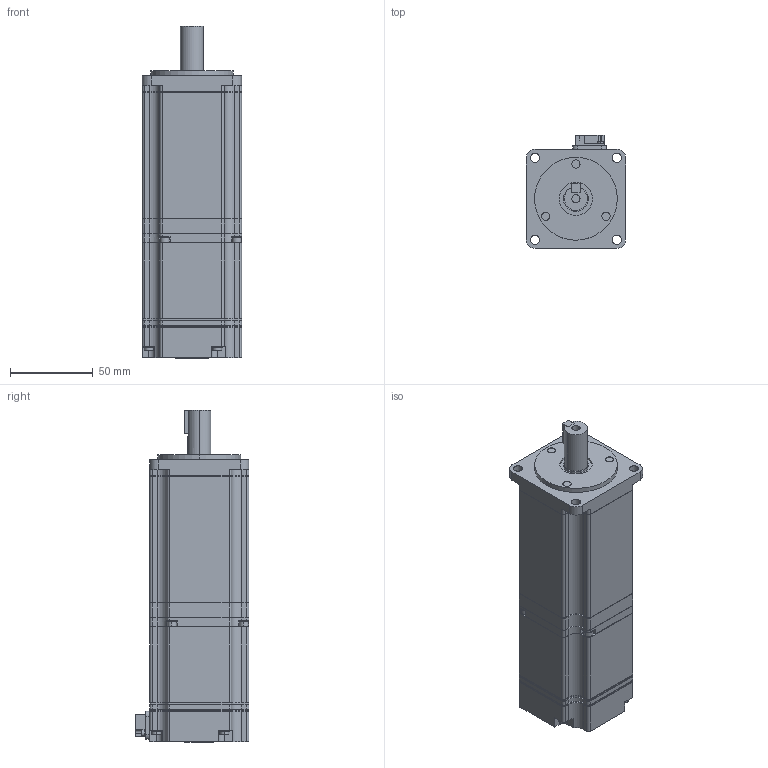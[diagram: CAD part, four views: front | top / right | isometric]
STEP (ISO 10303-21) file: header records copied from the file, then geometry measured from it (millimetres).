
FILE_DESCRIPTION (( 'STEP AP203' ), '1' );
FILE_NAME ('sgmav_06a_a6c.STEP', '2009-03-27T06:22:23', ( 'T' ), ( 'T' ), 'SwSTEP 2.0', 'SolidWorks 2006052', '' );
FILE_SCHEMA (( 'CONFIG_CONTROL_DESIGN' ));
Length unit declared in the file: millimetre
Products named in the file (3): sgmav_06a_a6c_base; sgmav_06a_a6c_key; sgmav_06a_a6c
Assembly tree (2 placements, depth 2):
  sgmav_06a_a6c
    sgmav_06a_a6c_key
    sgmav_06a_a6c_base
Bounding box: 60.1 x 68.8 x 200.6 mm (x, y, z)
Volume: 554156.2 mm3; surface area: 52958.1 mm2
Topology: 2 solids, 2 shells, 645 faces, 1769 edges, 1170 vertices
Faces by surface type: plane 353, cylinder 292
Entity records: 20961 total; most frequent: DIRECTION 3676, CARTESIAN_POINT 3631, ORIENTED_EDGE 3538, EDGE_CURVE 1769, AXIS2_PLACEMENT_3D 1261, VERTEX_POINT 1170, VECTOR 1154, LINE 1154
